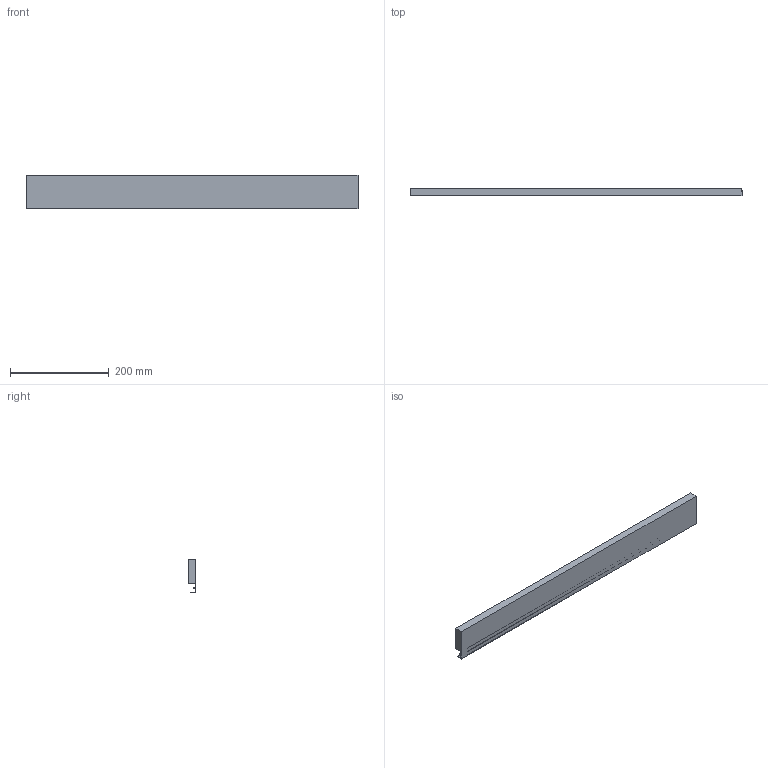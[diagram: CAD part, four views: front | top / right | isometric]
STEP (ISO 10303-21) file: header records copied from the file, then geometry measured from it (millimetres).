
FILE_DESCRIPTION (( 'STEP AP214' ), '1' );
FILE_NAME ('Innenschub-Blendenprofil_KAB800_S19.step', '2010-09-23T12:27:11', ( 'grass' ), ( '' ), 'SwSTEP 2.0', 'SolidWorks 2010', '' );
FILE_SCHEMA (( 'AUTOMOTIVE_DESIGN' ));
Length unit declared in the file: millimetre
Products named in the file (1): Innenschub-Blendenprofil_KAB800_S19
Bounding box: 671 x 15.9 x 67.6 mm (x, y, z)
Volume: 556365.8 mm3; surface area: 133343.2 mm2
Topology: 1 solids, 1 shells, 17 faces, 42 edges, 28 vertices
Faces by surface type: plane 15, cylinder 2
Entity records: 534 total; most frequent: CARTESIAN_POINT 88, ORIENTED_EDGE 84, DIRECTION 82, EDGE_CURVE 42, VECTOR 38, LINE 38, VERTEX_POINT 28, AXIS2_PLACEMENT_3D 22
